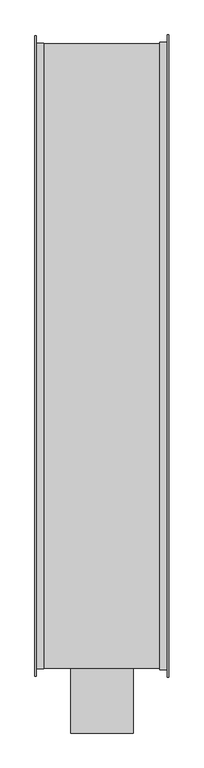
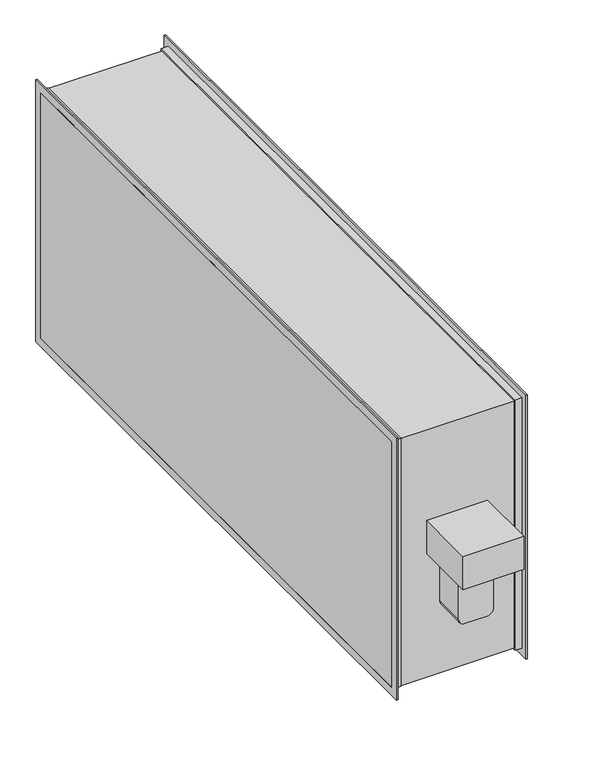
"""IFC4 building model written with IfcOpenShell, lengths in millimetres: damper geometry, ADSK_ПВК_КЛАПЪ_НО_Прямоугольный : КЛАПЪ_НО."""

import ifcopenshell
import ifcopenshell.guid

model = None  # the IFC model being written
_history = None  # IfcOwnerHistory: only IFC2X3 demands one
_inside = {}  # id of a spatial element -> (the spatial element, [elements in it])
_under = {}  # id of a project, library or spatial element -> (it, [spatial elements below it])
_declared = {}  # id of a project -> (the project, [libraries it declares])
_typed = {}  # id of a type object -> (the type object, [elements of that type])
_made_of = {}  # id of a material, layer set ... -> (it, [elements and type objects made of it])


def new_model(schema):
    """Start an empty IFC model of exactly this schema.

    Asked for "IFC4X3", IfcOpenShell would pick the latest addendum, in which some entities
    have other attributes; the version numbers below select the first issue.
    IFC2X3 requires an IfcOwnerHistory on every rooted entity: one is made here for all.
    """
    global model, _history
    if schema == "IFC4X3":
        model = ifcopenshell.file(schema_version=(4, 3, 0, 0))
    else:
        model = ifcopenshell.file(schema=schema)
    _inside.clear()
    _under.clear()
    _declared.clear()
    _typed.clear()
    _made_of.clear()
    _history = None
    if model.schema == "IFC2X3":
        org = make("IfcOrganization", Name="unknown")
        user = make(
            "IfcPersonAndOrganization",
            ThePerson=make("IfcPerson", FamilyName="unknown"),
            TheOrganization=org,
        )
        app = make(
            "IfcApplication",
            ApplicationDeveloper=org,
            Version="unknown",
            ApplicationFullName="unknown",
            ApplicationIdentifier="unknown",
        )
        _history = make(
            "IfcOwnerHistory",
            OwningUser=user,
            OwningApplication=app,
            ChangeAction="ADDED",
            CreationDate=0,
        )
    return model


def make(cls, **values):
    """One entity of the class cls with the attributes given. An attribute that is None is left unset."""
    return model.create_entity(
        cls, **{name: value for name, value in values.items() if value is not None}
    )


def rooted(cls, **values):
    """An entity with a GlobalId (a new one), such as an element, a storey or a relation."""
    return make(cls, GlobalId=ifcopenshell.guid.new(), OwnerHistory=_history, **values)


def si_unit(unit_type, name, prefix=None):
    """IfcSIUnit, for example si_unit("LENGTHUNIT", "METRE", prefix="MILLI")."""
    return make("IfcSIUnit", UnitType=unit_type, Prefix=prefix, Name=name)


def assignment(units):
    """IfcUnitAssignment: the units of a project."""
    return None if units is None else make("IfcUnitAssignment", Units=units)


def point(xyz):
    """IfcCartesianPoint."""
    return None if xyz is None else make("IfcCartesianPoint", Coordinates=xyz)


def direction(xyz):
    """IfcDirection."""
    return None if xyz is None else make("IfcDirection", DirectionRatios=xyz)


def frame(location, z_axis=None, x_axis=None):
    """IfcAxis2Placement3D, a coordinate frame: its origin and axes. An axis left out is left unset."""
    return make(
        "IfcAxis2Placement3D",
        Location=point(location),
        Axis=direction(z_axis),
        RefDirection=direction(x_axis),
    )


def frame_2d(location, x_axis=None):
    """IfcAxis2Placement2D, a coordinate frame in the plane: its origin and x axis."""
    return make(
        "IfcAxis2Placement2D", Location=point(location), RefDirection=direction(x_axis)
    )


def origin():
    """The frame at (0, 0, 0) with its axes left unset."""
    return frame((0.0, 0.0, 0.0))


def place(relative_to, where):
    """IfcLocalPlacement: puts the frame where relative to a parent placement (None: the world)."""
    return make(
        "IfcLocalPlacement", PlacementRelTo=relative_to, RelativePlacement=where
    )


def context(
    kind, dimensions, precision=None, world=None, true_north=None, identifier=None
):
    """IfcGeometricRepresentationContext, for example the 3D "Model" context."""
    return make(
        "IfcGeometricRepresentationContext",
        ContextIdentifier=identifier,
        ContextType=kind,
        CoordinateSpaceDimension=dimensions,
        Precision=precision,
        WorldCoordinateSystem=world,
        TrueNorth=true_north,
    )


def project(units=None, contexts=None):
    """IfcProject with its units and contexts."""
    return rooted(
        "IfcProject",
        Name="project",
        RepresentationContexts=contexts,
        UnitsInContext=assignment(units),
    )


def spatial(cls, under=None, at=None, **own):
    """A site, building, storey or space (cls), placed at a placement, below another one or the project."""
    s = rooted(cls, ObjectPlacement=at, **own)
    if under is not None:
        _under.setdefault(under.id(), (under, []))[1].append(s)
    return s


def polyline(points):
    """IfcPolyline through the points."""
    return make("IfcPolyline", Points=[point(p) for p in points])


def circle_curve(where, radius):
    """IfcCircle in the frame where."""
    return make("IfcCircle", Position=where, Radius=radius)


def trimmed(basis, trim1, trim2, sense, master):
    """IfcTrimmedCurve: the piece of a basis curve between two trims."""
    return make(
        "IfcTrimmedCurve",
        BasisCurve=basis,
        Trim1=trim1,
        Trim2=trim2,
        SenseAgreement=sense,
        MasterRepresentation=master,
    )


def segment(curve, same_sense, transition):
    """IfcCompositeCurveSegment."""
    return make(
        "IfcCompositeCurveSegment",
        Transition=transition,
        SameSense=same_sense,
        ParentCurve=curve,
    )


def composite_curve(segments, self_intersect=None):
    """IfcCompositeCurve: segments joined end to end."""
    return make("IfcCompositeCurve", Segments=segments, SelfIntersect=self_intersect)


def outline(outer, holes=None, kind="AREA"):
    """IfcArbitraryClosedProfileDef: a profile drawn as a closed curve; with holes, ...WithVoids."""
    if holes is None:
        return make("IfcArbitraryClosedProfileDef", ProfileType=kind, OuterCurve=outer)
    return make(
        "IfcArbitraryProfileDefWithVoids",
        ProfileType=kind,
        OuterCurve=outer,
        InnerCurves=holes,
    )


def extrude(swept, where, along, depth):
    """IfcExtrudedAreaSolid: the profile swept, set in the frame where, extruded along a direction by depth."""
    return make(
        "IfcExtrudedAreaSolid",
        SweptArea=swept,
        Position=where,
        ExtrudedDirection=direction(along),
        Depth=depth,
    )


def faces_of(points, faces, orient=None, outer=None):
    """IfcFace entities. A face is a list of loops; a loop is a list of indices into points, from 0.

    orient and outer hold one flag for each loop. By default every Orientation is true, the
    first loop of a face is its IfcFaceOuterBound and the others are IfcFaceBound.
    """
    made = []
    for i, loops in enumerate(faces):
        bounds = []
        for j, loop in enumerate(loops):
            is_outer = j == 0 if outer is None else outer[i][j]
            bounds.append(
                make(
                    "IfcFaceOuterBound" if is_outer else "IfcFaceBound",
                    Bound=make("IfcPolyLoop", Polygon=[points[k] for k in loop]),
                    Orientation=True if orient is None else orient[i][j],
                )
            )
        made.append(make("IfcFace", Bounds=bounds))
    return made


def faceted_brep(points, faces, orient=None, outer=None, voids=None):
    """IfcFacetedBrep: a solid bounded by flat faces; with voids (closed shells), ...WithVoids."""
    shared = [point(p) for p in points]
    hull = make("IfcClosedShell", CfsFaces=faces_of(shared, faces, orient, outer))
    if voids is None:
        return make("IfcFacetedBrep", Outer=hull)
    return make(
        "IfcFacetedBrepWithVoids",
        Outer=hull,
        Voids=[
            make(cls, CfsFaces=faces_of(shared, fs, o, b)) for cls, fs, o, b in voids
        ],
    )


def shape(context_of_items, identifier, shape_type, items):
    """IfcShapeRepresentation: the items that make up one representation, for example the "Body"."""
    return make(
        "IfcShapeRepresentation",
        ContextOfItems=context_of_items,
        RepresentationIdentifier=identifier,
        RepresentationType=shape_type,
        Items=items,
    )


def source(mapping_origin, context_of_items, identifier, shape_type, items):
    """IfcRepresentationMap: a shape defined once, which mapped items show again and again."""
    return make(
        "IfcRepresentationMap",
        MappingOrigin=mapping_origin,
        MappedRepresentation=shape(context_of_items, identifier, shape_type, items),
    )


def transform(
    local_origin,
    x_axis=None,
    y_axis=None,
    z_axis=None,
    scale=None,
    scale2=None,
    scale3=None,
    uniform=True,
):
    """IfcCartesianTransformationOperator3D, or its non-uniform kind. x_axis, y_axis, z_axis: its Axis1, 2, 3."""
    if uniform:
        return make(
            "IfcCartesianTransformationOperator3D",
            Axis1=direction(x_axis),
            Axis2=direction(y_axis),
            LocalOrigin=point(local_origin),
            Scale=scale,
            Axis3=direction(z_axis),
        )
    return make(
        "IfcCartesianTransformationOperator3DnonUniform",
        Axis1=direction(x_axis),
        Axis2=direction(y_axis),
        LocalOrigin=point(local_origin),
        Scale=scale,
        Axis3=direction(z_axis),
        Scale2=scale2,
        Scale3=scale3,
    )


def mapped(mapping_source, mapping_target):
    """IfcMappedItem: shows the shape of a source again, moved by a transform."""
    return make(
        "IfcMappedItem", MappingSource=mapping_source, MappingTarget=mapping_target
    )


def made_of(thing, what):
    """Note that an element or type object is made of a material, layer set ...; save() writes the relation."""
    if what is not None:
        _made_of.setdefault(what.id(), (what, []))[1].append(thing)
    return thing


def element(
    cls,
    number,
    at=None,
    inside=None,
    cuts=None,
    type_object=None,
    material=None,
    context=None,
    identifier="Body",
    shape_type=None,
    held_by="IfcProductDefinitionShape",
    body=None,
    shapes=None,
    **own,
):
    """One element of the class cls, such as IfcWall. Its Tag is "e" and its number.

    at: its placement. inside: the storey or other place that contains it. cuts: it is an
    opening in that element (IfcRelVoidsElement). A single representation is given by context,
    identifier, shape_type and body (its items); several are given by shapes. held_by: the class
    of the entity that holds the representations. save() writes the other relations.
    """
    e = rooted(cls, Tag="e%d" % number, ObjectPlacement=at, **own)
    if body is not None:
        shapes = [shape(context, identifier, shape_type, body)]
    if shapes is not None:
        e.Representation = make(held_by, Representations=shapes)
    if inside is not None:
        _inside.setdefault(inside.id(), (inside, []))[1].append(e)
    if cuts is not None:
        rooted(
            "IfcRelVoidsElement", RelatingBuildingElement=cuts, RelatedOpeningElement=e
        )
    if type_object is not None:
        _typed.setdefault(type_object.id(), (type_object, []))[1].append(e)
    return made_of(e, material)


def aggregate(whole, parts):
    """IfcRelAggregates: a whole, such as a stair, and the parts it consists of."""
    return rooted("IfcRelAggregates", RelatingObject=whole, RelatedObjects=parts)


def save(model, path):
    """Write the relations noted so far, then the file.

    IfcRelAggregates (storeys below a building ...), IfcRelContainedInSpatialStructure (elements
    in a storey), IfcRelDefinesByType, IfcRelAssociatesMaterial and IfcRelDeclares: one each for
    every whole, place, type object, material and project.
    """
    for whole, parts in _under.values():
        aggregate(whole, parts)
    for where, things in _inside.values():
        rooted(
            "IfcRelContainedInSpatialStructure",
            RelatedElements=things,
            RelatingStructure=where,
        )
    for kind, things in _typed.values():
        rooted("IfcRelDefinesByType", RelatedObjects=things, RelatingType=kind)
    for what, things in _made_of.values():
        rooted("IfcRelAssociatesMaterial", RelatedObjects=things, RelatingMaterial=what)
    for by, libraries in _declared.values():
        rooted("IfcRelDeclares", RelatingContext=by, RelatedDefinitions=libraries)
    model.write(path)


def damper_fdd39969(model_context):
    return source(origin(), model_context, "Body", "SolidModel", [
        extrude(outline(composite_curve([segment(trimmed(circle_curve(frame_2d((8.3674271, 0.0)), 6.0), [point((8.3674271, -6.0))], [point((8.3674271, 6.0))], False, "CARTESIAN"), True, "CONTINUOUS"), segment(trimmed(circle_curve(frame_2d((8.3674271, 0.0)), 6.0), [point((8.3674271, 6.0))], [point((8.3674271, -6.0))], False, "CARTESIAN"), True, "CONTINUOUS")], self_intersect=False)), frame((0.0, -700.0, 0.0), z_axis=(0.0, 1.0, 0.0), x_axis=(0.0, 0.0, 1.0)), (0.0, 0.0, 1.0), 100.0),
        extrude(outline(polyline([(19.330127, -735.5354596), (19.330127, -740.5354596), (15.0, -743.0354596), (10.669873, -740.5354596), (10.669873, -735.5354596), (15.0, -733.0354596), (19.330127, -735.5354596)])), frame((0.0, 0.0, -160.0), z_axis=(0.0, 0.0, 1.0), x_axis=(1.0, 0.0, 0.0)), (0.0, 0.0, 1.0), 20.0),
        extrude(outline(polyline([(-19.330127, -735.5354596), (-15.0, -733.0354596), (-10.669873, -735.5354596), (-10.669873, -740.5354596), (-15.0, -743.0354596), (-19.330127, -740.5354596), (-19.330127, -735.5354596)])), frame((0.0, 0.0, -160.0), z_axis=(0.0, 0.0, 1.0), x_axis=(1.0, 0.0, 0.0)), (0.0, 0.0, 1.0), 20.0),
        extrude(outline(polyline([(20.0, -795.0), (-20.0, -795.0), (-20.0, -775.0), (20.0, -775.0), (20.0, -795.0)])), frame((0.0, 0.0, -11.6325729), z_axis=(0.0, 0.0, 1.0), x_axis=(1.0, 0.0, 0.0)), (0.0, 0.0, 1.0), 40.0),
        extrude(outline(composite_curve([segment(polyline([(40.0, 25.0), (40.0, -25.0)]), True, "CONTINUOUS"), segment(trimmed(circle_curve(frame_2d((25.0, -25.0)), 15.0), [point((40.0, -25.0))], [point((25.0, -40.0))], False, "CARTESIAN"), True, "CONTINUOUS"), segment(polyline([(25.0, -40.0), (-125.0, -40.0)]), True, "CONTINUOUS"), segment(trimmed(circle_curve(frame_2d((-125.0, -25.0)), 15.0), [point((-125.0, -40.0))], [point((-140.0, -25.0))], False, "CARTESIAN"), True, "CONTINUOUS"), segment(polyline([(-140.0, -25.0), (-140.0, 25.0)]), True, "CONTINUOUS"), segment(trimmed(circle_curve(frame_2d((-125.0, 25.0)), 15.0), [point((-140.0, 25.0))], [point((-125.0, 40.0))], False, "CARTESIAN"), True, "CONTINUOUS"), segment(polyline([(-125.0, 40.0), (25.0, 40.0)]), True, "CONTINUOUS"), segment(trimmed(circle_curve(frame_2d((25.0, 25.0)), 15.0), [point((25.0, 40.0))], [point((40.0, 25.0))], False, "CARTESIAN"), True, "CONTINUOUS")], self_intersect=False)), frame((0.0, -775.0, 0.0), z_axis=(0.0, 1.0, 0.0), x_axis=(0.0, 0.0, 1.0)), (0.0, 0.0, 1.0), 75.0),
        faceted_brep([(-70.0, -845.0, 80.0), (-70.0, -845.0, 70.0), (-70.0, -845.0, 0.0), (70.0, -845.0, 0.0), (70.0, -845.0, 80.0), (60.0, -845.0, 80.0), (-60.0, -700.0, 0.0), (-70.0, -700.0, 0.0), (-70.0, -700.0, 80.0), (70.0, -700.0, 80.0), (70.0, -700.0, 0.0), (60.0, -700.0, 0.0), (60.0, -700.0, 70.0), (-60.0, -700.0, 70.0), (-60.0, -835.0, 0.0), (60.0, -835.0, 0.0), (-60.0, -835.0, 70.0), (60.0, -835.0, 70.0)], [[[0, 1, 2, 3, 4, 5]], [[6, 7, 8, 9, 10, 11, 12, 13]], [[7, 2, 1, 0, 8]], [[7, 6, 14, 15, 11, 10, 3, 2]], [[14, 6, 13, 16]], [[9, 8, 0, 5, 4]], [[14, 16, 17, 15]], [[3, 10, 9, 4]], [[16, 13, 12, 17]], [[11, 15, 17, 12]]]),
        faceted_brep([(150.0, 700.0, 300.0), (130.0, 700.0, 300.0), (130.0, 700.0, -300.0), (150.0, 700.0, -300.0), (146.5502892, 720.0, 320.0), (150.0, 720.0, 320.0), (150.0, 720.0, -320.0), (146.5502892, 720.0, -320.0), (130.0, 703.4497108, 303.4497108), (146.5502892, 703.4497108, 303.4497108), (146.5502892, 703.4497108, -303.4497108), (130.0, 703.4497108, -303.4497108), (130.0, -700.0, -300.0), (150.0, -700.0, -300.0), (150.0, -720.0, -320.0), (146.5502892, -720.0, -320.0), (146.5502892, -703.4497108, -303.4497108), (130.0, -703.4497108, -303.4497108), (130.0, -700.0, 300.0), (150.0, -700.0, 300.0), (150.0, -720.0, 320.0), (146.5502892, -720.0, 320.0), (146.5502892, -703.4497108, 303.4497108), (130.0, -703.4497108, 303.4497108)], [[[0, 1, 2, 3]], [[4, 5, 6, 7]], [[8, 9, 10, 11]], [[3, 2, 12, 13]], [[7, 6, 14, 15]], [[11, 10, 16, 17]], [[13, 12, 18, 19]], [[15, 14, 20, 21]], [[17, 16, 22, 23]], [[19, 18, 1, 0]], [[5, 20, 14, 6], [3, 13, 19, 0]], [[21, 20, 5, 4]], [[7, 15, 21, 4], [9, 22, 16, 10]], [[23, 22, 9, 8]], [[11, 17, 23, 8], [1, 18, 12, 2]]]),
        faceted_brep([(-150.0, -697.6138858, 297.6138858), (-130.0, -697.6138858, 297.6138858), (-130.0, -697.6138858, -297.6138858), (-150.0, -697.6138858, -297.6138858), (-146.5502892, -717.6138858, 317.6138858), (-150.0, -717.6138858, 317.6138858), (-150.0, -717.6138858, -317.6138858), (-146.5502892, -717.6138858, -317.6138858), (-130.0, -701.0635966, 301.0635966), (-146.5502892, -701.0635966, 301.0635966), (-146.5502892, -701.0635966, -301.0635966), (-130.0, -701.0635966, -301.0635966), (-130.0, 697.6138858, -297.6138858), (-150.0, 697.6138858, -297.6138858), (-150.0, 717.6138858, -317.6138858), (-146.5502892, 717.6138858, -317.6138858), (-146.5502892, 701.0635966, -301.0635966), (-130.0, 701.0635966, -301.0635966), (-130.0, 697.6138858, 297.6138858), (-150.0, 697.6138858, 297.6138858), (-150.0, 717.6138858, 317.6138858), (-146.5502892, 717.6138858, 317.6138858), (-146.5502892, 701.0635966, 301.0635966), (-130.0, 701.0635966, 301.0635966)], [[[0, 1, 2, 3]], [[4, 5, 6, 7]], [[8, 9, 10, 11]], [[3, 2, 12, 13]], [[7, 6, 14, 15]], [[11, 10, 16, 17]], [[13, 12, 18, 19]], [[15, 14, 20, 21]], [[17, 16, 22, 23]], [[19, 18, 1, 0]], [[5, 20, 14, 6], [3, 13, 19, 0]], [[21, 20, 5, 4]], [[7, 15, 21, 4], [9, 22, 16, 10]], [[23, 22, 9, 8]], [[11, 17, 23, 8], [1, 18, 12, 2]]]),
        extrude(outline(polyline([(150.0, 700.0), (150.0, -700.0), (-150.0, -700.0), (-150.0, 700.0), (150.0, 700.0)])), frame((0.0, 0.0, -300.0), z_axis=(0.0, 0.0, 1.0), x_axis=(1.0, 0.0, 0.0)), (0.0, 0.0, 1.0), 600.0),
    ])


if __name__ == "__main__":
    model = new_model("IFC4")
    model_context = context("Model", 3, world=origin())
    ifc_project = project(units=[si_unit("LENGTHUNIT", "METRE", prefix="MILLI")], contexts=[model_context])
    site = spatial("IfcSite", under=ifc_project)
    building = spatial("IfcBuilding", under=site)
    placement = place(None, origin())
    damper_shape = damper_fdd39969(model_context)
    element("IfcDamper", 1, ObjectType="ADSK_ПВК_КЛАПЪ_НО_Прямоугольный : КЛАПЪ_НО", at=placement, inside=building, context=model_context, shape_type="MappedRepresentation", body=[
        mapped(damper_shape, transform((0.0, 0.0, 0.0), x_axis=(1.0, 0.0, 0.0), y_axis=(0.0, 1.0, 0.0), z_axis=(0.0, 0.0, 1.0))),
    ])
    save(model, "model.ifc")
